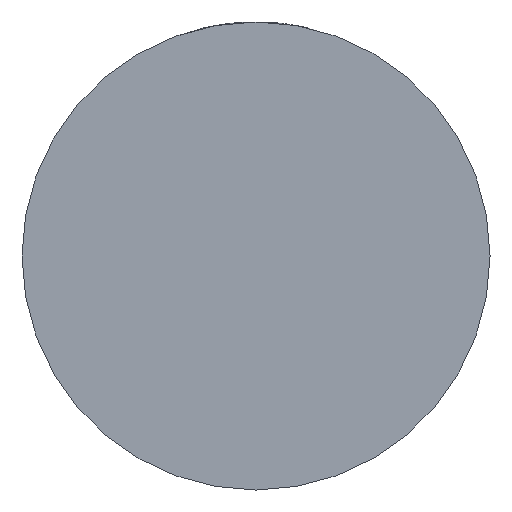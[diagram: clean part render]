
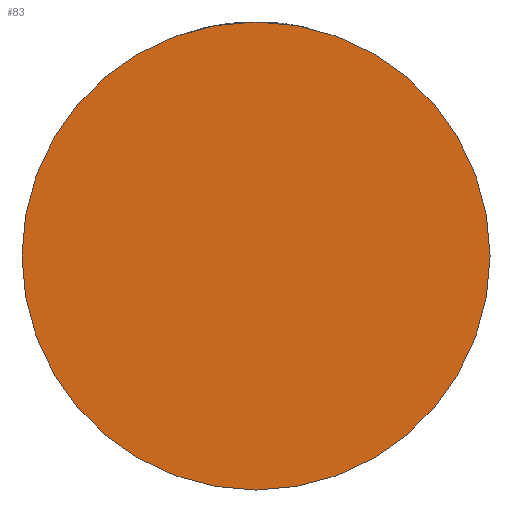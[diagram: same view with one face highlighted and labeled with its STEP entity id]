
A CAD part, front view. The second image highlights one B-rep face of the part: STEP entity #83.
In plain terms, the highlighted planar face has unit normal (0, -1, 0).
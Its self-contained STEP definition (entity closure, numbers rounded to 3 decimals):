
#83 = ADVANCED_FACE ( 'NONE', ( #1919 ), #1670, .T. ) ;
#227 = CARTESIAN_POINT ( 'NONE',  ( 0., -28., 0. ) ) ;
#651 = DIRECTION ( 'NONE',  ( 1., 0., 0. ) ) ;
#675 = AXIS2_PLACEMENT_3D ( 'NONE', #1277, #2233, #1209 ) ;
#809 = AXIS2_PLACEMENT_3D ( 'NONE', #3988, #2638, #651 ) ;
#1209 = DIRECTION ( 'NONE',  ( 1., 0., 0. ) ) ;
#1229 = AXIS2_PLACEMENT_3D ( 'NONE', #227, #3566, #2624 ) ;
#1277 = CARTESIAN_POINT ( 'NONE',  ( 0., -28., 0. ) ) ;
#1392 = ORIENTED_EDGE ( 'NONE', *, *, #3172, .T. ) ;
#1670 = PLANE ( 'NONE',  #809 ) ;
#1919 = FACE_OUTER_BOUND ( 'NONE', #3963, .T. ) ;
#2028 = EDGE_CURVE ( 'NONE', #3444, #4207, #3584, .T. ) ;
#2233 = DIRECTION ( 'NONE',  ( 0., -1., 0. ) ) ;
#2624 = DIRECTION ( 'NONE',  ( 1., 0., 0. ) ) ;
#2638 = DIRECTION ( 'NONE',  ( 0., -1., 0. ) ) ;
#2743 = CIRCLE ( 'NONE', #675, 40. ) ;
#3087 = ORIENTED_EDGE ( 'NONE', *, *, #2028, .T. ) ;
#3172 = EDGE_CURVE ( 'NONE', #4207, #3444, #2743, .T. ) ;
#3444 = VERTEX_POINT ( 'NONE', #4098 ) ;
#3566 = DIRECTION ( 'NONE',  ( 0., -1., 0. ) ) ;
#3584 = CIRCLE ( 'NONE', #1229, 40. ) ;
#3775 = CARTESIAN_POINT ( 'NONE',  ( 40., -28., 0. ) ) ;
#3963 = EDGE_LOOP ( 'NONE', ( #3087, #1392 ) ) ;
#3988 = CARTESIAN_POINT ( 'NONE',  ( 0., -28., 0. ) ) ;
#4098 = CARTESIAN_POINT ( 'NONE',  ( -40., -28., 0. ) ) ;
#4207 = VERTEX_POINT ( 'NONE', #3775 ) ;
